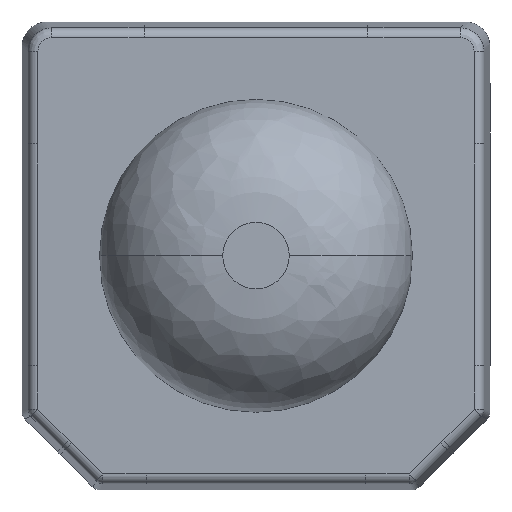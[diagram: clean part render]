
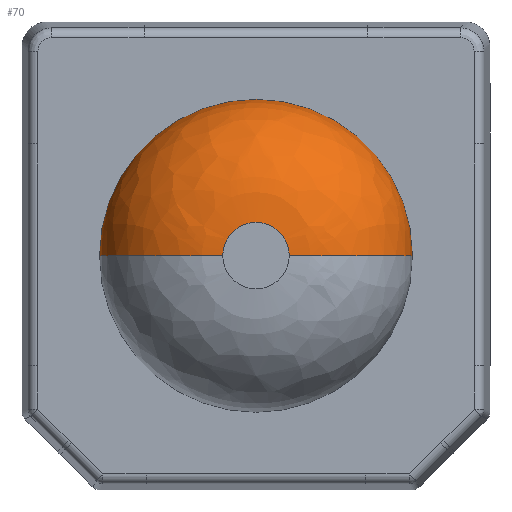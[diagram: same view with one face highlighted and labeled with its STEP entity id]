
A CAD part, top view. The second image highlights one B-rep face of the part: STEP entity #70.
In plain terms, the highlighted free-form (B-spline) face has degree [2, 2] with [5, 3] control points.
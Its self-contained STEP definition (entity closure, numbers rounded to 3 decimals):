
#70=ADVANCED_FACE('',(#129),#862,.T.);
#129=FACE_OUTER_BOUND('',#188,.T.);
#188=EDGE_LOOP('',(#442,#443,#444,#445));
#442=ORIENTED_EDGE('',*,*,#576,.T.);
#443=ORIENTED_EDGE('',*,*,#566,.T.);
#444=ORIENTED_EDGE('',*,*,#577,.F.);
#445=ORIENTED_EDGE('',*,*,#575,.F.);
#566=EDGE_CURVE('',#817,#818,#610,.T.);
#575=EDGE_CURVE('',#822,#823,#614,.T.);
#576=EDGE_CURVE('',#822,#817,#615,.T.);
#577=EDGE_CURVE('',#823,#818,#616,.T.);
#610=TRIMMED_CURVE($,#648,(#2115),(#2116),.T.,.CARTESIAN.);
#614=TRIMMED_CURVE($,#652,(#2220),(#2221),.T.,.CARTESIAN.);
#615=TRIMMED_CURVE($,#653,(#2223),(#2224),.T.,.CARTESIAN.);
#616=TRIMMED_CURVE($,#654,(#2226),(#2227),.T.,.CARTESIAN.);
#648=CIRCLE('',#975,2.5);
#652=CIRCLE('',#979,2.5);
#653=CIRCLE('',#980,3.175);
#654=CIRCLE('',#981,0.675);
#817=VERTEX_POINT('',#1642);
#818=VERTEX_POINT('',#1643);
#822=VERTEX_POINT('',#1647);
#823=VERTEX_POINT('',#1648);
#862=(
BOUNDED_SURFACE()
B_SPLINE_SURFACE(2,2,((#1557,#1558,#1559),(#1560,#1561,#1562),(#1563,#1564,
#1565),(#1566,#1567,#1568),(#1569,#1570,#1571)),.UNSPECIFIED.,.F.,.F.,.F.)
B_SPLINE_SURFACE_WITH_KNOTS((3,2,3),(3,3),(2.12,3.179,
4.239),(0.,3.927),.UNSPECIFIED.)
GEOMETRIC_REPRESENTATION_ITEM()
RATIONAL_B_SPLINE_SURFACE(((1.,0.707,1.),(0.707,
0.5,0.707),(1.,0.707,1.),(0.707,0.5,
0.707),(1.,0.707,1.)))
REPRESENTATION_ITEM('')
SURFACE()
);
#975=AXIS2_PLACEMENT_3D($,#2114,#1089,#1090);
#979=AXIS2_PLACEMENT_3D($,#2219,#1097,#1098);
#980=AXIS2_PLACEMENT_3D($,#2222,#1099,#1100);
#981=AXIS2_PLACEMENT_3D($,#2225,#1101,#1102);
#1089=DIRECTION('',(0.,1.,0.));
#1090=DIRECTION('',(-1.,0.,0.));
#1097=DIRECTION('',(0.,-1.,0.));
#1098=DIRECTION('',(1.,0.,0.));
#1099=DIRECTION('',(0.,0.,1.));
#1100=DIRECTION('',(1.,0.,0.));
#1101=DIRECTION('',(0.,0.,1.));
#1102=DIRECTION('',(1.,0.,0.));
#1557=CARTESIAN_POINT('',(3.175,0.,2.3));
#1558=CARTESIAN_POINT('',(3.175,0.,4.8));
#1559=CARTESIAN_POINT('',(0.675,0.,4.8));
#1560=CARTESIAN_POINT('',(3.175,3.175,2.3));
#1561=CARTESIAN_POINT('',(3.175,3.175,4.8));
#1562=CARTESIAN_POINT('',(0.675,0.675,4.8));
#1563=CARTESIAN_POINT('',(0.,3.175,2.3));
#1564=CARTESIAN_POINT('',(0.,3.175,4.8));
#1565=CARTESIAN_POINT('',(0.,0.675,4.8));
#1566=CARTESIAN_POINT('',(-3.175,3.175,2.3));
#1567=CARTESIAN_POINT('',(-3.175,3.175,4.8));
#1568=CARTESIAN_POINT('',(-0.675,0.675,4.8));
#1569=CARTESIAN_POINT('',(-3.175,0.,2.3));
#1570=CARTESIAN_POINT('',(-3.175,0.,4.8));
#1571=CARTESIAN_POINT('',(-0.675,0.,4.8));
#1642=CARTESIAN_POINT('',(-3.175,0.,2.3));
#1643=CARTESIAN_POINT('',(-0.675,0.,4.8));
#1647=CARTESIAN_POINT('',(3.175,0.,2.3));
#1648=CARTESIAN_POINT('',(0.675,0.,4.8));
#2114=CARTESIAN_POINT('',(-0.675,0.,2.3));
#2115=CARTESIAN_POINT('',(-3.175,0.,2.3));
#2116=CARTESIAN_POINT('',(-0.675,0.,4.8));
#2219=CARTESIAN_POINT('',(0.675,0.,2.3));
#2220=CARTESIAN_POINT('',(3.175,0.,2.3));
#2221=CARTESIAN_POINT('',(0.675,0.,4.8));
#2222=CARTESIAN_POINT('',(0.,0.,2.3));
#2223=CARTESIAN_POINT('',(3.175,0.,2.3));
#2224=CARTESIAN_POINT('',(-3.175,0.,2.3));
#2225=CARTESIAN_POINT('',(0.,0.,4.8));
#2226=CARTESIAN_POINT('',(0.675,0.,4.8));
#2227=CARTESIAN_POINT('',(-0.675,0.,4.8));
